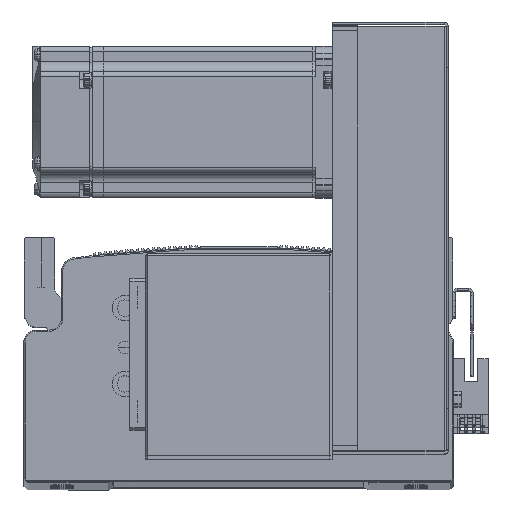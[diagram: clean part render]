
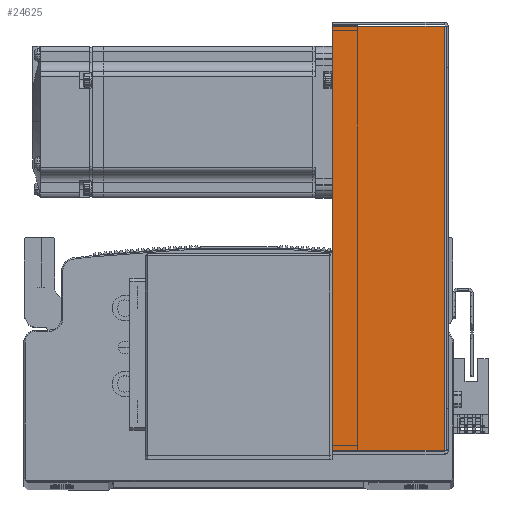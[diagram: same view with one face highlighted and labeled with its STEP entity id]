
A CAD part, top view. The second image highlights one B-rep face of the part: STEP entity #24625.
In plain terms, the highlighted planar face has unit normal (0, 0, 1).
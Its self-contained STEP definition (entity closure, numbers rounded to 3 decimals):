
#1968 = EDGE_LOOP ( 'NONE', ( #46726, #46720, #46716, #46713 ) ) ;
#6922 = CARTESIAN_POINT ( 'NONE',  ( -83.793, 0.737, 40.5 ) ) ;
#6932 = CARTESIAN_POINT ( 'NONE',  ( -83.793, 45., 40.5 ) ) ;
#6938 = CARTESIAN_POINT ( 'NONE',  ( 83.793, 45., 40.5 ) ) ;
#7990 = CARTESIAN_POINT ( 'NONE',  ( 83.793, 0.737, 40.5 ) ) ;
#21990 = DIRECTION ( 'NONE',  ( -1., 0., 0. ) ) ;
#22022 = CARTESIAN_POINT ( 'NONE',  ( 0., 0.737, 40.5 ) ) ;
#22079 = DIRECTION ( 'NONE',  ( 0., 1., 0. ) ) ;
#22107 = CARTESIAN_POINT ( 'NONE',  ( -84.5, 45., 40.5 ) ) ;
#22115 = DIRECTION ( 'NONE',  ( -1., 0., 0. ) ) ;
#22121 = CARTESIAN_POINT ( 'NONE',  ( 83.793, 0., 40.5 ) ) ;
#24625 = ADVANCED_FACE ( 'NONE', ( #44505 ), #44684, .F. ) ;
#28222 = LINE ( 'NONE', #22121, #28227 ) ;
#28227 = VECTOR ( 'NONE', #22079, 1000. ) ;
#28244 = LINE ( 'NONE', #22022, #28253 ) ;
#28251 = VECTOR ( 'NONE', #22115, 1000. ) ;
#28253 = VECTOR ( 'NONE', #21990, 1000. ) ;
#28258 = LINE ( 'NONE', #22107, #28251 ) ;
#36223 = VERTEX_POINT ( 'NONE', #7990 ) ;
#36309 = VERTEX_POINT ( 'NONE', #6932 ) ;
#36364 = VERTEX_POINT ( 'NONE', #6922 ) ;
#36397 = VERTEX_POINT ( 'NONE', #6938 ) ;
#44505 = FACE_OUTER_BOUND ( 'NONE', #1968, .T. ) ;
#44656 = DIRECTION ( 'NONE',  ( 0., 0., -1. ) ) ;
#44666 = DIRECTION ( 'NONE',  ( -1., 0., 0. ) ) ;
#44684 = PLANE ( 'NONE',  #47131 ) ;
#44686 = CARTESIAN_POINT ( 'NONE',  ( 0., 0., 40.5 ) ) ;
#46713 = ORIENTED_EDGE ( 'NONE', *, *, #67868, .F. ) ;
#46716 = ORIENTED_EDGE ( 'NONE', *, *, #69397, .T. ) ;
#46720 = ORIENTED_EDGE ( 'NONE', *, *, #69405, .T. ) ;
#46726 = ORIENTED_EDGE ( 'NONE', *, *, #69373, .F. ) ;
#47131 = AXIS2_PLACEMENT_3D ( 'NONE', #44686, #44656, #44666 ) ;
#55399 = DIRECTION ( 'NONE',  ( 0., 1., 0. ) ) ;
#55446 = CARTESIAN_POINT ( 'NONE',  ( -83.793, 0., 40.5 ) ) ;
#58667 = LINE ( 'NONE', #55446, #58677 ) ;
#58677 = VECTOR ( 'NONE', #55399, 1000. ) ;
#67868 = EDGE_CURVE ( 'NONE', #36364, #36309, #58667, .T. ) ;
#69373 = EDGE_CURVE ( 'NONE', #36223, #36364, #28244, .T. ) ;
#69397 = EDGE_CURVE ( 'NONE', #36397, #36309, #28258, .T. ) ;
#69405 = EDGE_CURVE ( 'NONE', #36223, #36397, #28222, .T. ) ;
